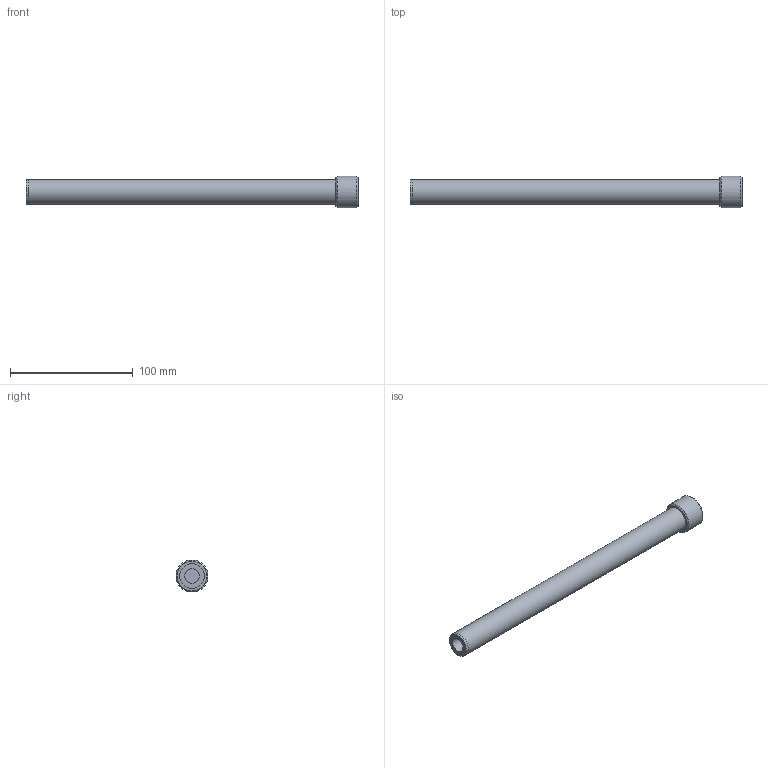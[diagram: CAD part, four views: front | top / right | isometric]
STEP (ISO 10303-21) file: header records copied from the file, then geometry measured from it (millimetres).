
FILE_DESCRIPTION( ( 'STEP AP203' ), '1' );
FILE_NAME( 'C:/Temp/Ganter_Step_05_03_2020/data/3_5/gn880_1/gn880_1_ans_abl/gn_880_1_a/Connector piece with drain hose GN 880.1-22-A-250-T.stp', '2020-03-12T13:42:27', ( 'License CC BY-ND 4.0' ), ( 'CADENAS' ), ' ', 'PARTsolutions', ' ' );
FILE_SCHEMA( ( 'CONFIG_CONTROL_DESIGN' ) );
Length unit declared in the file: millimetre
Products named in the file (5): Connector piece with drain hose GN 880.1-22-A-250-T; _Anschlussstueck mit Ablassschlauch GN 880.1-22-A-250-T_a; _Anschlussstueck mit Ablassschlauch GN 880.1-22-A-250-T_s; _Anschlussstueck mit Ablassschlauch GN 880.1-22-A-250-T_dk; _Anschlussstueck mit Ablassschlauch GN 880.1-22-A-250-T_dk2
Assembly tree (4 placements, depth 2):
  Connector piece with drain hose GN 880.1-22-A-250-T
    _Anschlussstueck mit Ablassschlauch GN 880.1-22-A-250-T_a
    _Anschlussstueck mit Ablassschlauch GN 880.1-22-A-250-T_s
    _Anschlussstueck mit Ablassschlauch GN 880.1-22-A-250-T_dk
    _Anschlussstueck mit Ablassschlauch GN 880.1-22-A-250-T_dk2
Bounding box: 270 x 26 x 26 mm (x, y, z)
Volume: 49558.5 mm3; surface area: 35569.3 mm2
Topology: 4 solids, 4 shells, 44 faces, 66 edges, 42 vertices
Faces by surface type: plane 20, cylinder 15, cone 6, torus 3
Full cylindrical faces by diameter (mm): 8.5 x1, 9.5 x1, 10.5 x2, 12 x1, 14 x2, 15 x3, 20 x3, 20.376 x1, 26 x1
Entity records: 1042 total; most frequent: DIRECTION 182, CARTESIAN_POINT 134, AXIS2_PLACEMENT_3D 91, EDGE_LOOP 84, ORIENTED_EDGE 84, FACE_OUTER_BOUND 62, ADVANCED_FACE 44, VERTEX_POINT 43
